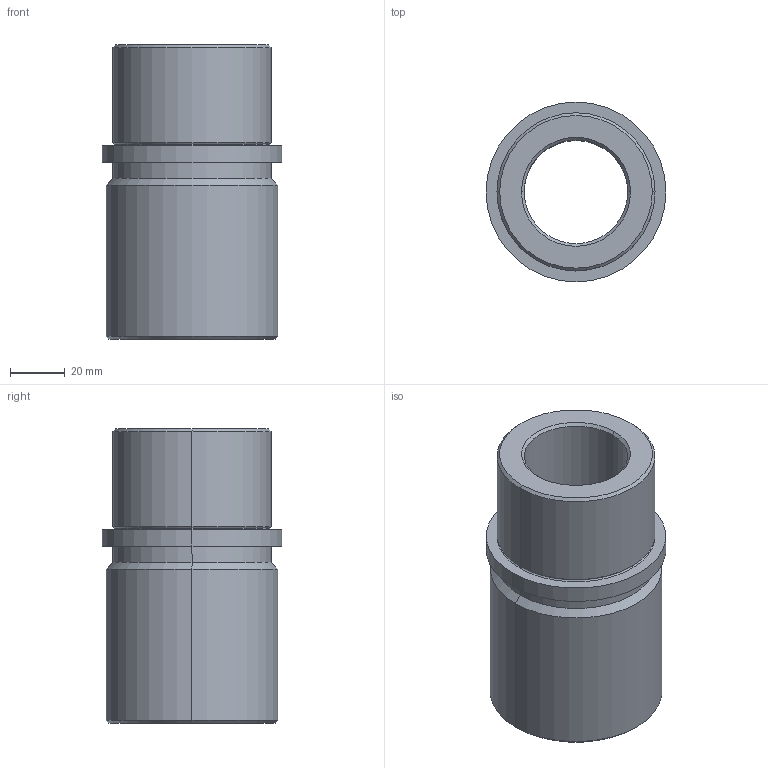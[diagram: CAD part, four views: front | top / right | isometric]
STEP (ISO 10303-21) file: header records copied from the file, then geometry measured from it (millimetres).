
FILE_DESCRIPTION (( 'STEP AP214' ), '1' );
FILE_NAME ('Casquillo SB500-38-108 b.STEP', '2019-01-10T13:33:30', ( '' ), ( '' ), 'SwSTEP 2.0', 'SolidWorks 2018', '' );
FILE_SCHEMA (( 'AUTOMOTIVE_DESIGN' ));
Length unit declared in the file: millimetre
Products named in the file (1): Casquillo SB500-38-108 b
Bounding box: 66 x 66 x 108 mm (x, y, z)
Volume: 194561.3 mm3; surface area: 38754.3 mm2
Topology: 1 solids, 1 shells, 40 faces, 80 edges, 44 vertices
Faces by surface type: cylinder 14, torus 12, cone 10, plane 4
Entity records: 1074 total; most frequent: DIRECTION 218, CARTESIAN_POINT 165, ORIENTED_EDGE 160, AXIS2_PLACEMENT_3D 97, EDGE_CURVE 80, CIRCLE 56, EDGE_LOOP 44, VERTEX_POINT 44
